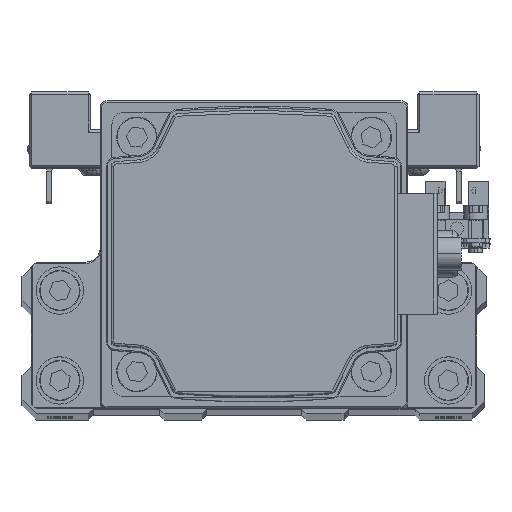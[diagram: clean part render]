
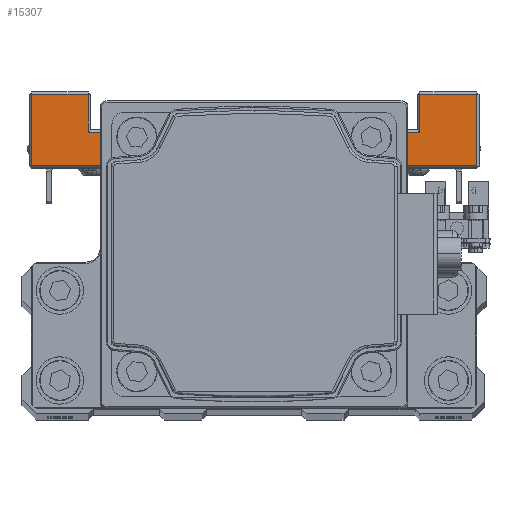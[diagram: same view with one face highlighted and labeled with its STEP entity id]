
A CAD part, top view. The second image highlights one B-rep face of the part: STEP entity #15307.
In plain terms, the highlighted planar face has unit normal (0, 0, 1) as drawn and (1, 0, 0) by its records, which use the part's own axes.
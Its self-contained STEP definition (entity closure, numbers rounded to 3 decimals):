
#119 = CARTESIAN_POINT ( 'NONE',  ( 47., 23., 47. ) ) ;
#480 = VERTEX_POINT ( 'NONE', #119 ) ;
#1116 = LINE ( 'NONE', #14062, #7283 ) ;
#2064 = CARTESIAN_POINT ( 'NONE',  ( 47., 15., -20. ) ) ;
#2239 = AXIS2_PLACEMENT_3D ( 'NONE', #19571, #32442, #3459 ) ;
#2285 = ORIENTED_EDGE ( 'NONE', *, *, #11457, .T. ) ;
#2475 = LINE ( 'NONE', #15428, #39915 ) ;
#2527 = DIRECTION ( 'NONE',  ( 0., 1., 0. ) ) ;
#2600 = ORIENTED_EDGE ( 'NONE', *, *, #29538, .T. ) ;
#3117 = VERTEX_POINT ( 'NONE', #3946 ) ;
#3312 = CARTESIAN_POINT ( 'NONE',  ( 47., 7.5, -20. ) ) ;
#3459 = DIRECTION ( 'NONE',  ( 0., 0., 1. ) ) ;
#3946 = CARTESIAN_POINT ( 'NONE',  ( 47., 23., -35. ) ) ;
#4243 = VECTOR ( 'NONE', #34639, 1000. ) ;
#6639 = PLANE ( 'NONE',  #2239 ) ;
#6843 = CARTESIAN_POINT ( 'NONE',  ( 47., 7.5, 47. ) ) ;
#6862 = EDGE_CURVE ( 'NONE', #39700, #480, #23445, .T. ) ;
#7033 = VECTOR ( 'NONE', #16254, 1000. ) ;
#7283 = VECTOR ( 'NONE', #26957, 1000. ) ;
#7344 = DIRECTION ( 'NONE',  ( 0., 0., 1. ) ) ;
#7389 = CARTESIAN_POINT ( 'NONE',  ( 47., 8., 47. ) ) ;
#7985 = ORIENTED_EDGE ( 'NONE', *, *, #13414, .T. ) ;
#8522 = LINE ( 'NONE', #21446, #41553 ) ;
#8875 = LINE ( 'NONE', #21789, #4243 ) ;
#8889 = ORIENTED_EDGE ( 'NONE', *, *, #30118, .T. ) ;
#9055 = VECTOR ( 'NONE', #7344, 1000. ) ;
#9975 = LINE ( 'NONE', #22906, #25503 ) ;
#11457 = EDGE_CURVE ( 'NONE', #38425, #15134, #9975, .T. ) ;
#11978 = CARTESIAN_POINT ( 'NONE',  ( 47., 8., -47. ) ) ;
#12403 = EDGE_CURVE ( 'NONE', #40283, #40972, #1116, .T. ) ;
#13414 = EDGE_CURVE ( 'NONE', #17989, #14233, #31058, .T. ) ;
#14062 = CARTESIAN_POINT ( 'NONE',  ( 47., 7.5, -47. ) ) ;
#14073 = VERTEX_POINT ( 'NONE', #14863 ) ;
#14233 = VERTEX_POINT ( 'NONE', #32161 ) ;
#14863 = CARTESIAN_POINT ( 'NONE',  ( 47., 8., -20. ) ) ;
#15009 = DIRECTION ( 'NONE',  ( 0., 0., 1. ) ) ;
#15130 = EDGE_CURVE ( 'NONE', #14073, #40283, #40922, .T. ) ;
#15134 = VERTEX_POINT ( 'NONE', #37745 ) ;
#15197 = VECTOR ( 'NONE', #2527, 1000. ) ;
#15307 = ADVANCED_FACE ( 'NONE', ( #35597 ), #6639, .F. ) ;
#15428 = CARTESIAN_POINT ( 'NONE',  ( 47., 8., 20. ) ) ;
#15478 = LINE ( 'NONE', #28351, #38769 ) ;
#15897 = CARTESIAN_POINT ( 'NONE',  ( 47., 23., -47. ) ) ;
#16254 = DIRECTION ( 'NONE',  ( 0., -1., 0. ) ) ;
#16993 = VECTOR ( 'NONE', #15009, 1000. ) ;
#17322 = ORIENTED_EDGE ( 'NONE', *, *, #31245, .T. ) ;
#17827 = EDGE_CURVE ( 'NONE', #14073, #20473, #32304, .T. ) ;
#17989 = VERTEX_POINT ( 'NONE', #27016 ) ;
#18636 = LINE ( 'NONE', #31521, #15197 ) ;
#19003 = ORIENTED_EDGE ( 'NONE', *, *, #12403, .T. ) ;
#19571 = CARTESIAN_POINT ( 'NONE',  ( 47., 7.5, -20. ) ) ;
#19773 = DIRECTION ( 'NONE',  ( 0., -1., 0. ) ) ;
#20067 = ORIENTED_EDGE ( 'NONE', *, *, #15130, .T. ) ;
#20473 = VERTEX_POINT ( 'NONE', #41732 ) ;
#20728 = EDGE_CURVE ( 'NONE', #3117, #17989, #8522, .T. ) ;
#21446 = CARTESIAN_POINT ( 'NONE',  ( 47., 7.5, -35. ) ) ;
#21536 = ORIENTED_EDGE ( 'NONE', *, *, #6862, .T. ) ;
#21789 = CARTESIAN_POINT ( 'NONE',  ( 47., 23., -20. ) ) ;
#22906 = CARTESIAN_POINT ( 'NONE',  ( 47., 7.5, 20. ) ) ;
#23445 = LINE ( 'NONE', #36296, #9055 ) ;
#23633 = ORIENTED_EDGE ( 'NONE', *, *, #34121, .T. ) ;
#24142 = CARTESIAN_POINT ( 'NONE',  ( 47., 23., 35. ) ) ;
#24347 = ORIENTED_EDGE ( 'NONE', *, *, #34120, .T. ) ;
#24391 = CARTESIAN_POINT ( 'NONE',  ( 47., 8., 20. ) ) ;
#24560 = VECTOR ( 'NONE', #24889, 1000. ) ;
#24889 = DIRECTION ( 'NONE',  ( 0., 0., -1. ) ) ;
#25503 = VECTOR ( 'NONE', #35742, 1000. ) ;
#25824 = EDGE_LOOP ( 'NONE', ( #34483, #20067, #19003, #17322, #34293, #7985, #24347, #21536, #8889, #2600, #2285, #23633 ) ) ;
#26957 = DIRECTION ( 'NONE',  ( 0., 1., 0. ) ) ;
#27016 = CARTESIAN_POINT ( 'NONE',  ( 47., 15., -35. ) ) ;
#28300 = DIRECTION ( 'NONE',  ( 0., 0., -1. ) ) ;
#28351 = CARTESIAN_POINT ( 'NONE',  ( 47., -7.5, -20. ) ) ;
#28527 = VECTOR ( 'NONE', #19773, 1000. ) ;
#29538 = EDGE_CURVE ( 'NONE', #36813, #38425, #2475, .T. ) ;
#30118 = EDGE_CURVE ( 'NONE', #480, #36813, #35795, .T. ) ;
#31058 = LINE ( 'NONE', #2064, #16993 ) ;
#31245 = EDGE_CURVE ( 'NONE', #40972, #3117, #8875, .T. ) ;
#31521 = CARTESIAN_POINT ( 'NONE',  ( 47., 7.5, 35. ) ) ;
#32161 = CARTESIAN_POINT ( 'NONE',  ( 47., 15., 35. ) ) ;
#32304 = LINE ( 'NONE', #3312, #7033 ) ;
#32442 = DIRECTION ( 'NONE',  ( -1., 0., 0. ) ) ;
#32641 = CARTESIAN_POINT ( 'NONE',  ( 47., 8., -47. ) ) ;
#34120 = EDGE_CURVE ( 'NONE', #14233, #39700, #18636, .T. ) ;
#34121 = EDGE_CURVE ( 'NONE', #15134, #20473, #15478, .T. ) ;
#34293 = ORIENTED_EDGE ( 'NONE', *, *, #20728, .T. ) ;
#34299 = DIRECTION ( 'NONE',  ( 0., -1., 0. ) ) ;
#34483 = ORIENTED_EDGE ( 'NONE', *, *, #17827, .F. ) ;
#34639 = DIRECTION ( 'NONE',  ( 0., 0., 1. ) ) ;
#35597 = FACE_OUTER_BOUND ( 'NONE', #25824, .T. ) ;
#35742 = DIRECTION ( 'NONE',  ( 0., -1., 0. ) ) ;
#35795 = LINE ( 'NONE', #6843, #28527 ) ;
#36296 = CARTESIAN_POINT ( 'NONE',  ( 47., 23., -20. ) ) ;
#36813 = VERTEX_POINT ( 'NONE', #7389 ) ;
#37745 = CARTESIAN_POINT ( 'NONE',  ( 47., -7.5, 20. ) ) ;
#38425 = VERTEX_POINT ( 'NONE', #24391 ) ;
#38769 = VECTOR ( 'NONE', #41217, 1000. ) ;
#39700 = VERTEX_POINT ( 'NONE', #24142 ) ;
#39915 = VECTOR ( 'NONE', #28300, 1000. ) ;
#40283 = VERTEX_POINT ( 'NONE', #32641 ) ;
#40922 = LINE ( 'NONE', #11978, #24560 ) ;
#40972 = VERTEX_POINT ( 'NONE', #15897 ) ;
#41217 = DIRECTION ( 'NONE',  ( 0., 0., -1. ) ) ;
#41553 = VECTOR ( 'NONE', #34299, 1000. ) ;
#41732 = CARTESIAN_POINT ( 'NONE',  ( 47., -7.5, -20. ) ) ;
